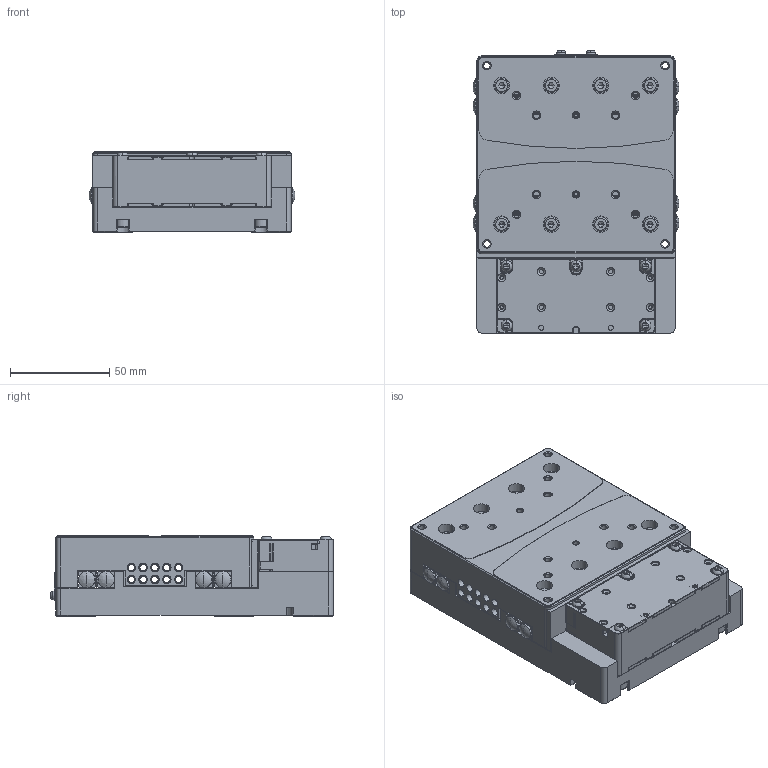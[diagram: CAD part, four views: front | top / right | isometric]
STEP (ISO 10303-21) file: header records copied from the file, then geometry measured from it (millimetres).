
FILE_DESCRIPTION (( 'STEP AP203' ), '1' );
FILE_NAME ('z-ls3-1020-2_jc.STEP', '2023-04-26T02:53:43', ( '微软用户' ), ( '微软中国' ), 'SwSTEP 2.0', 'SolidWorks 2021', '' );
FILE_SCHEMA (( 'CONFIG_CONTROL_DESIGN' ));
Length unit declared in the file: millimetre
Products named in the file (18): M2_5-5; hexagon socket head cap screws gb_GB_FASTENER_SCREWS_HSHCS M4X6-N; JM316_20211103_ASM; z-ls3-1020-2_jc; hexagon socket button head screws gb_GB_SOCKET_TYPE7 M3X8-N; cross recessed cheese head screws gb_GB_CROSS_SCREWS_TYPE2 M2.5X5-5  H type-N; M2-4_PTS; CERAMIC_24-3-100; HT_Z-LS3-1020-2; DJP_10; VR3_100H_58_AF1_ASM; _VR3-100_14Z_ROLLER_CAGE; _VR3-100_14Z_ROLLER_GUIDE__TOP; _VR3-100_14Z_ROLLER_GUIDE; VR3_100H_58_AF0_ASM; THZJ_Z-LS3-1020-2; JZ_Z-LS3-1020-2; hexagon socket head cap screws gb_GB_FASTENER_SCREWS_HSHCS M4X10-N
Assembly tree (44 placements, depth 3):
  z-ls3-1020-2_jc
    JZ_Z-LS3-1020-2
    VR3_100H_58_AF0_ASM
      _VR3-100_14Z_ROLLER_GUIDE
      _VR3-100_14Z_ROLLER_CAGE
      _VR3-100_14Z_ROLLER_GUIDE__TOP
    VR3_100H_58_AF1_ASM
      _VR3-100_14Z_ROLLER_GUIDE
      _VR3-100_14Z_ROLLER_CAGE
      _VR3-100_14Z_ROLLER_GUIDE__TOP
    HT_Z-LS3-1020-2
    THZJ_Z-LS3-1020-2
    JM316_20211103_ASM
    CERAMIC_24-3-100
    M2_5-5
    DJP_10
    M2-4_PTS
    hexagon socket head cap screws gb_GB_FASTENER_SCREWS_HSHCS M4X6-N  x8
    hexagon socket button head screws gb_GB_SOCKET_TYPE7 M3X8-N  x5
    cross recessed cheese head screws gb_GB_CROSS_SCREWS_TYPE2 M2.5X5-5  H type-N  x2
    hexagon socket head cap screws gb_GB_FASTENER_SCREWS_HSHCS M4X10-N  x13
Bounding box: 104 x 142.6 x 40.5 mm (x, y, z)
Volume: 480297.4 mm3; surface area: 153676.2 mm2
Topology: 42 solids, 43 shells, 3370 faces, 8764 edges, 5551 vertices
Faces by surface type: plane 1639, cylinder 1077, cone 576, torus 58, bspline 10, sphere 10
Entity records: 89051 total; most frequent: CARTESIAN_POINT 26684, ORIENTED_EDGE 13088, DIRECTION 11391, EDGE_CURVE 6544, VERTEX_POINT 4232, AXIS2_PLACEMENT_3D 3981, LINE 3429, VECTOR 3429
